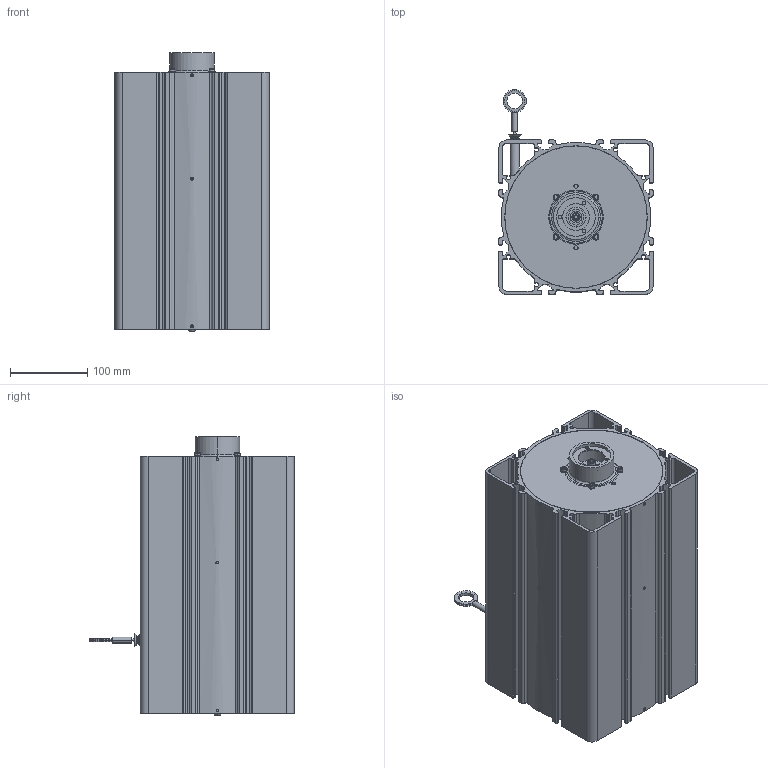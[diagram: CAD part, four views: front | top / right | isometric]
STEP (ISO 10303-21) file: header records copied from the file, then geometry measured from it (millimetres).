
FILE_DESCRIPTION((''),'2;1');
FILE_NAME('WDS-50000-P200-M-SO_ASM','2015-02-09T',('15000411'),(''),'PRO/ENGINEER BY PARAMETRIC TECHNOLOGY CORPORATION, 2013410','PRO/ENGINEER BY PARAMETRIC TECHNOLOGY CORPORATION, 2013410','');
FILE_SCHEMA(('CONFIG_CONTROL_DESIGN'));
Length unit declared in the file: millimetre
Products named in the file (89): TELESO_SENZORU_50M_P200_AF0; BOCNICE_VNITRNI_P200_AF0; LOZISKO_6000_AF0; HRIDEL_MOTORU_50M_P200_AF0; POJ_KROUZEK_HRIDEL_10_AF0; UNASEC_PRUZINY_P200_AF0; PODLOZKA_MOTORU_P200_AF0; MEZIDESKA_POM_P200_AF0; MEZIDESKA_POM_P200_AF1; MEZIDESKA_POM_P200_AF2; KOLIK_PRUZNY_3X26_AF0; KOLIK_PRUZNY_3X26_AF1; KOLIK_PRUZNY_3X26_AF2; KOLIK_PRUZNY_3X26_AF3; KOLIK_PRUZNY_3X26_AF4; KOLIK_PRUZNY_3X26_AF5; KOLIK_PRUZNY_3X26_AF6; KOLIK_PRUZNY_3X26_AF7; KOLIK_PRUZNY_3X26_AF8; KOLIK_PRUZNY_3X26_AF9; KOLIK_PRUZNY_3X26_AF10; KOLIK_PRUZNY_3X26_AF11; KOLIK_PRUZNY_3X26_AF12; KOLIK_PRUZNY_3X26_AF13; KOLIK_PRUZNY_3X26_AF14; KOLIK_PRUZNY_3X26_AF15; BOCNICE_VNEJSI_P200_AF0; KOLIK_PRUZNY_3X26_AF16; KOLIK_PRUZNY_3X26_AF17; KOLIK_PRUZNY_3X26_AF18; KOLIK_PRUZNY_3X26_AF19; KOLIK_PRUZNY_3X26_AF20; KOLIK_PRUZNY_3X26_AF21; LOZISKO_6000_AF1; P200_25X0I35X11000_AF0; P200_25X0I35X11000_AF1; P200_25X0I35X11000_AF2; UNASEC_BUBINKU_P200_AF0; KOLIK_PRUZNY_3X20_AF0; KOLIK_PRUZNY_3X20_AF1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
Assembly tree (91 placements, depth 2):
  WDS-50000-P200-M-SO_ASM
    TELESO_SENZORU_50M_P200_AF0
    BOCNICE_VNITRNI_P200_AF0
    LOZISKO_6000_AF0
    HRIDEL_MOTORU_50M_P200_AF0
    POJ_KROUZEK_HRIDEL_10_AF0
    UNASEC_PRUZINY_P200_AF0
    PODLOZKA_MOTORU_P200_AF0
    MEZIDESKA_POM_P200_AF0
    MEZIDESKA_POM_P200_AF1
    MEZIDESKA_POM_P200_AF2
    KOLIK_PRUZNY_3X26_AF0
    KOLIK_PRUZNY_3X26_AF1
    KOLIK_PRUZNY_3X26_AF2
    KOLIK_PRUZNY_3X26_AF3
    KOLIK_PRUZNY_3X26_AF4
    KOLIK_PRUZNY_3X26_AF5
    KOLIK_PRUZNY_3X26_AF6
    KOLIK_PRUZNY_3X26_AF7
    KOLIK_PRUZNY_3X26_AF8
    KOLIK_PRUZNY_3X26_AF9
    KOLIK_PRUZNY_3X26_AF10
    KOLIK_PRUZNY_3X26_AF11
    KOLIK_PRUZNY_3X26_AF12
    KOLIK_PRUZNY_3X26_AF13
    KOLIK_PRUZNY_3X26_AF14
    KOLIK_PRUZNY_3X26_AF15
    BOCNICE_VNEJSI_P200_AF0
    KOLIK_PRUZNY_3X26_AF16
    KOLIK_PRUZNY_3X26_AF17
    KOLIK_PRUZNY_3X26_AF18
    KOLIK_PRUZNY_3X26_AF19
    KOLIK_PRUZNY_3X26_AF20
    KOLIK_PRUZNY_3X26_AF21
    LOZISKO_6000_AF1
    P200_25X0I35X11000_AF0
    P200_25X0I35X11000_AF1
    P200_25X0I35X11000_AF2
    UNASEC_BUBINKU_P200_AF0
    KOLIK_PRUZNY_3X20_AF0
    KOLIK_PRUZNY_3X20_AF1
    PREDNI_STENA_P200_AF0
    ZAVITOVA_HRIDEL_40M_P200_AF0
    SROUB_5X10_PULK_IMBUS_CEP_AF0
    LOZISKO_KLUZNE_10_13_AF0
    KOLIK_30M_P200_AF0
    KOLIK_30M_P200_AF1
    TRUBKA_PRUCHODKY_P200_AF0
    BUBINEK_40M-50M_P200_AF0
    POUZDRO_50M_P200_AF0
    POUZDRO_50M_P200_AF1
    PRUCHODKA_P200
    MANZETA
    STIRATKO
    STAV_SR_M4X4_IMBUS_PLOCH_AF0
    STAV_SR_M4X4_IMBUS_PLOCH_AF1
    STAV_SR_M4X4_IMBUS_PLOCH_AF2
    STAV_SR_M4X4_IMBUS_PLOCH_AF3
    STAV_SR_M4X4_IMBUS_PLOCH_AF4
    STAV_SR_M4X4_IMBUS_PLOCH_AF5
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Bounding box: 200 x 266 x 361.95 mm (x, y, z)
Volume: 1793806 mm3; surface area: 938887.9 mm2
Topology: 46 solids, 46 shells, 1197 faces, 3098 edges, 1992 vertices
Faces by surface type: plane 577, cylinder 426, cone 108, torus 42, sphere 26, revolution 16, bspline 2
Entity records: 34802 total; most frequent: CARTESIAN_POINT 8488, DIRECTION 5696, ORIENTED_EDGE 4960, EDGE_CURVE 2480, AXIS2_PLACEMENT_3D 2231, VERTEX_POINT 1596, VECTOR 1230, LINE 1230
